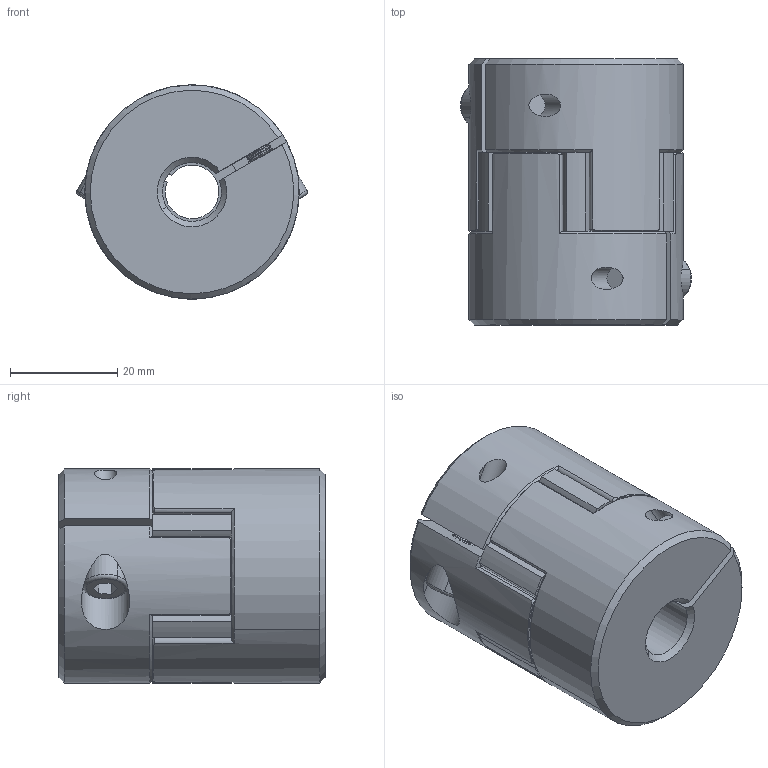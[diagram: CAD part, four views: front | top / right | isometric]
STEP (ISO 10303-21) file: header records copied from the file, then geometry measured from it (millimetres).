
FILE_DESCRIPTION (( 'STEP AP203' ), '1' );
FILE_NAME ('LF-B-D40L50-10-11.STEP', '2021-10-25T02:38:20', ( '' ), ( '' ), 'SwSTEP 2.0', 'SolidWorks 2018', '' );
FILE_SCHEMA (( 'CONFIG_CONTROL_DESIGN' ));
Length unit declared in the file: millimetre
Products named in the file (1): LF-B-D40L50-10-11
Bounding box: 43.11 x 49.7 x 40 mm (x, y, z)
Volume: 53813.5 mm3; surface area: 14661.3 mm2
Topology: 1 solids, 7 shells, 471 faces, 1117 edges, 662 vertices
Faces by surface type: cone 170, cylinder 169, plane 128, torus 4
Entity records: 13972 total; most frequent: CARTESIAN_POINT 2895, DIRECTION 2509, ORIENTED_EDGE 2226, EDGE_CURVE 1113, AXIS2_PLACEMENT_3D 1040, VERTEX_POINT 662, CIRCLE 568, EDGE_LOOP 487
